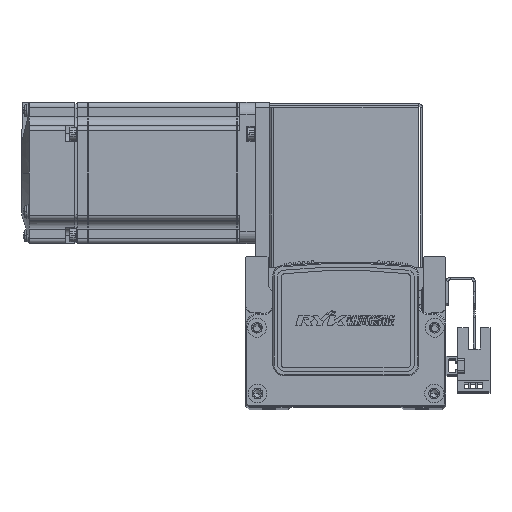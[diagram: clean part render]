
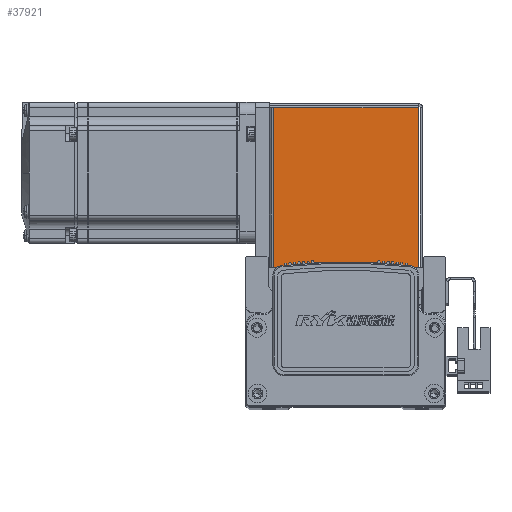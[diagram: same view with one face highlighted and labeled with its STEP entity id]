
A CAD part, top view. The second image highlights one B-rep face of the part: STEP entity #37921.
In plain terms, the highlighted planar face has unit normal (0, 0, 1).
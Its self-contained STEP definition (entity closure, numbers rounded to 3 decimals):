
#4206 = AXIS2_PLACEMENT_3D ( 'NONE', #12526, #12556, #12533 ) ;
#10761 = FACE_OUTER_BOUND ( 'NONE', #40967, .T. ) ;
#12526 = CARTESIAN_POINT ( 'NONE',  ( 0., 0., 35. ) ) ;
#12533 = DIRECTION ( 'NONE',  ( -1., 0., 0. ) ) ;
#12556 = DIRECTION ( 'NONE',  ( 0., 0., -1. ) ) ;
#12564 = PLANE ( 'NONE',  #4206 ) ;
#21653 = LINE ( 'NONE', #23421, #21695 ) ;
#21695 = VECTOR ( 'NONE', #23453, 1000. ) ;
#21720 = LINE ( 'NONE', #23489, #21760 ) ;
#21760 = VECTOR ( 'NONE', #23467, 1000. ) ;
#21778 = LINE ( 'NONE', #23660, #21858 ) ;
#21858 = VECTOR ( 'NONE', #23664, 1000. ) ;
#21882 = VECTOR ( 'NONE', #23702, 1000. ) ;
#21889 = LINE ( 'NONE', #23648, #21882 ) ;
#23421 = CARTESIAN_POINT ( 'NONE',  ( 30.763, 0.737, 35. ) ) ;
#23453 = DIRECTION ( 'NONE',  ( 0., 1., 0. ) ) ;
#23467 = DIRECTION ( 'NONE',  ( 0., 1., 0. ) ) ;
#23489 = CARTESIAN_POINT ( 'NONE',  ( -30.793, 0., 35. ) ) ;
#23648 = CARTESIAN_POINT ( 'NONE',  ( -32.5, 0.737, 35. ) ) ;
#23660 = CARTESIAN_POINT ( 'NONE',  ( 0., 68.5, 35. ) ) ;
#23664 = DIRECTION ( 'NONE',  ( -1., 0., 0. ) ) ;
#23702 = DIRECTION ( 'NONE',  ( -1., 0., 0. ) ) ;
#37921 = ADVANCED_FACE ( 'NONE', ( #10761 ), #12564, .F. ) ;
#40967 = EDGE_LOOP ( 'NONE', ( #53494, #53423, #53432, #53454 ) ) ;
#41098 = CARTESIAN_POINT ( 'NONE',  ( -30.793, 68.5, 35. ) ) ;
#41174 = CARTESIAN_POINT ( 'NONE',  ( -30.793, 0.737, 35. ) ) ;
#41178 = CARTESIAN_POINT ( 'NONE',  ( 30.763, 0.737, 35. ) ) ;
#41187 = CARTESIAN_POINT ( 'NONE',  ( 30.763, 68.5, 35. ) ) ;
#50831 = EDGE_CURVE ( 'NONE', #53057, #53091, #21653, .T. ) ;
#50880 = EDGE_CURVE ( 'NONE', #53075, #53062, #21720, .T. ) ;
#50999 = EDGE_CURVE ( 'NONE', #53091, #53062, #21778, .T. ) ;
#51018 = EDGE_CURVE ( 'NONE', #53057, #53075, #21889, .T. ) ;
#53057 = VERTEX_POINT ( 'NONE', #41178 ) ;
#53062 = VERTEX_POINT ( 'NONE', #41098 ) ;
#53075 = VERTEX_POINT ( 'NONE', #41174 ) ;
#53091 = VERTEX_POINT ( 'NONE', #41187 ) ;
#53423 = ORIENTED_EDGE ( 'NONE', *, *, #50999, .T. ) ;
#53432 = ORIENTED_EDGE ( 'NONE', *, *, #50880, .F. ) ;
#53454 = ORIENTED_EDGE ( 'NONE', *, *, #51018, .F. ) ;
#53494 = ORIENTED_EDGE ( 'NONE', *, *, #50831, .T. ) ;
